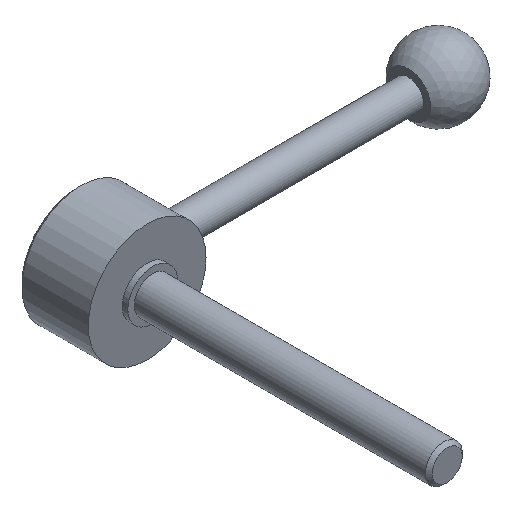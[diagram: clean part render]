
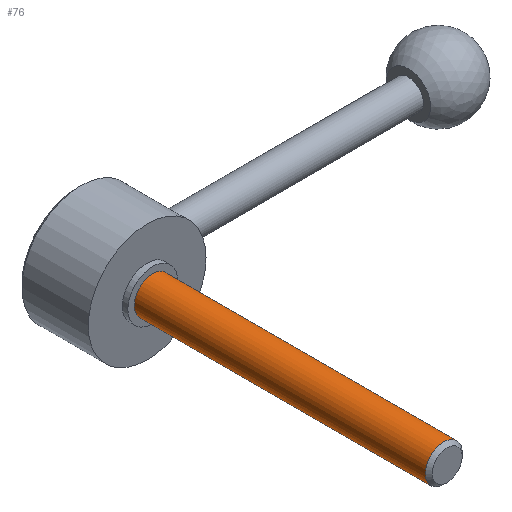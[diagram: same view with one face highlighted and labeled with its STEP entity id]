
A CAD part, isometric view. The second image highlights one B-rep face of the part: STEP entity #76.
In plain terms, the highlighted cylindrical face has radius 5 mm (diameter 10 mm), a full revolution.
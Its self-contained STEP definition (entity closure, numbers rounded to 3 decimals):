
#76 = ADVANCED_FACE( '', ( #93, #94 ), #95, .T. );
#93 = FACE_OUTER_BOUND( '', #134, .T. );
#94 = FACE_OUTER_BOUND( '', #135, .T. );
#95 = CYLINDRICAL_SURFACE( '', #136, 5. );
#134 = EDGE_LOOP( '', ( #177 ) );
#135 = EDGE_LOOP( '', ( #178 ) );
#136 = AXIS2_PLACEMENT_3D( '', #179, #180, #181 );
#177 = ORIENTED_EDGE( '', *, *, #242, .F. );
#178 = ORIENTED_EDGE( '', *, *, #243, .T. );
#179 = CARTESIAN_POINT( '', ( 0., -80., 0. ) );
#180 = DIRECTION( '', ( 0., 1., 0. ) );
#181 = DIRECTION( '', ( 0., 0., -1. ) );
#242 = EDGE_CURVE( '', #257, #257, #258, .T. );
#243 = EDGE_CURVE( '', #259, #259, #260, .T. );
#257 = VERTEX_POINT( '', #283 );
#258 = CIRCLE( '', #284, 5. );
#259 = VERTEX_POINT( '', #285 );
#260 = CIRCLE( '', #286, 5. );
#283 = CARTESIAN_POINT( '', ( 0., -79.08, -5. ) );
#284 = AXIS2_PLACEMENT_3D( '', #375, #376, #377 );
#285 = CARTESIAN_POINT( '', ( 0., 0., -5. ) );
#286 = AXIS2_PLACEMENT_3D( '', #378, #379, #380 );
#375 = CARTESIAN_POINT( '', ( 0., -79.08, 0. ) );
#376 = DIRECTION( '', ( 0., -1., 0. ) );
#377 = DIRECTION( '', ( 0., 0., -1. ) );
#378 = CARTESIAN_POINT( '', ( 0., 0., 0. ) );
#379 = DIRECTION( '', ( 0., -1., 0. ) );
#380 = DIRECTION( '', ( 0., 0., -1. ) );
